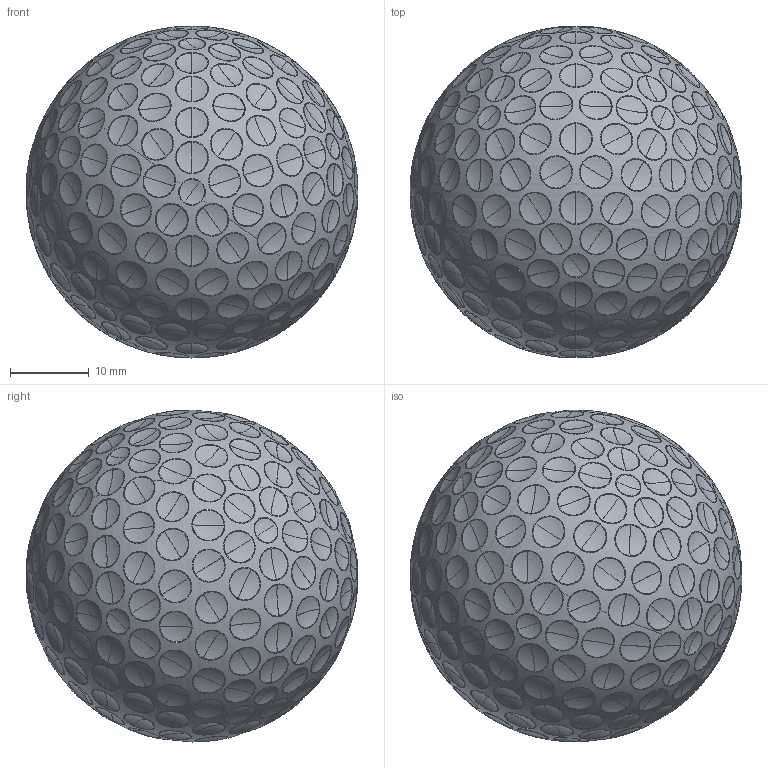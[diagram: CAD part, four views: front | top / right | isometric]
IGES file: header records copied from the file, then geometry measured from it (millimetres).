
Start section: SolidWorks IGES file using analytic representation for surfaces
Global section: file name: C:\Users\stein\Documents\grabcad\golf ball.IGS; native system: SolidWorks 2010; preprocessor: SolidWorks 2010; author: stein; date: 111126.124646; units: inch
Bounding box: 42.27 x 42.14 x 42.27 mm (x, y, z)
Surface area: 5654.8 mm2 (no closed solid volume)
Topology: 0 solids, 0 shells, 1010 faces, 12928 edges, 12890 vertices
Faces by surface type: revolution 506, bspline 504
